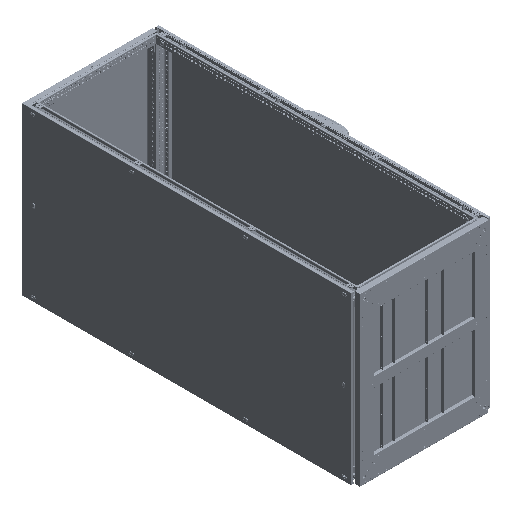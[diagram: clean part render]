
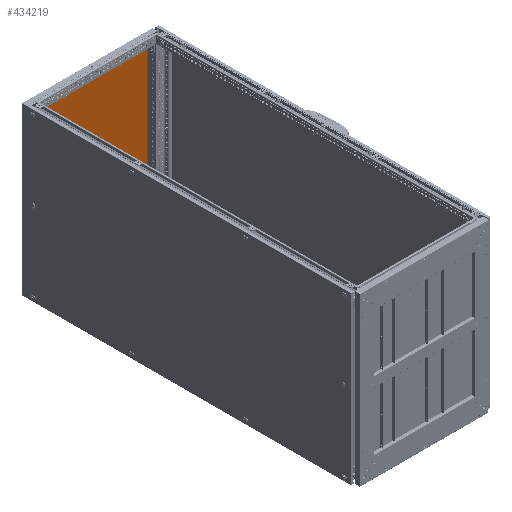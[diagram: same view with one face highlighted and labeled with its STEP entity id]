
A CAD part, isometric view. The second image highlights one B-rep face of the part: STEP entity #434219.
In plain terms, the highlighted planar face has unit normal (0, -1, 0).
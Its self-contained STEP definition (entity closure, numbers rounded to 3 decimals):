
#2221 = CARTESIAN_POINT ( 'NONE',  ( 445.01, 0., -350. ) ) ;
#4102 = VERTEX_POINT ( 'NONE', #454164 ) ;
#5975 = AXIS2_PLACEMENT_3D ( 'NONE', #424928, #415327, #129595 ) ;
#7315 = LINE ( 'NONE', #494138, #44578 ) ;
#16836 = CIRCLE ( 'NONE', #203551, 5. ) ;
#35758 = DIRECTION ( 'NONE',  ( 0., 0., -1. ) ) ;
#42490 = CARTESIAN_POINT ( 'NONE',  ( -450.01, 0., -345. ) ) ;
#44578 = VECTOR ( 'NONE', #49549, 1000. ) ;
#45973 = DIRECTION ( 'NONE',  ( 0., -1., 0. ) ) ;
#46067 = CARTESIAN_POINT ( 'NONE',  ( -445.01, 0., -350. ) ) ;
#49549 = DIRECTION ( 'NONE',  ( 0., 0., 1. ) ) ;
#85725 = LINE ( 'NONE', #436094, #210504 ) ;
#86368 = ORIENTED_EDGE ( 'NONE', *, *, #244236, .T. ) ;
#101419 = VERTEX_POINT ( 'NONE', #610314 ) ;
#108627 = VERTEX_POINT ( 'NONE', #155641 ) ;
#109139 = DIRECTION ( 'NONE',  ( -1., 0., 0. ) ) ;
#110313 = ORIENTED_EDGE ( 'NONE', *, *, #547512, .T. ) ;
#116216 = DIRECTION ( 'NONE',  ( 0., -1., 0. ) ) ;
#126480 = VECTOR ( 'NONE', #164180, 1000. ) ;
#128657 = CARTESIAN_POINT ( 'NONE',  ( 445.01, 0., -350. ) ) ;
#129595 = DIRECTION ( 'NONE',  ( 0., 0., -1. ) ) ;
#130514 = CIRCLE ( 'NONE', #5975, 5. ) ;
#130663 = EDGE_CURVE ( 'NONE', #619233, #4102, #608819, .T. ) ;
#155641 = CARTESIAN_POINT ( 'NONE',  ( -450.01, 0., 345. ) ) ;
#164180 = DIRECTION ( 'NONE',  ( -1., 0., 0. ) ) ;
#203551 = AXIS2_PLACEMENT_3D ( 'NONE', #545689, #45973, #292602 ) ;
#210504 = VECTOR ( 'NONE', #290049, 1000. ) ;
#215291 = CARTESIAN_POINT ( 'NONE',  ( 445.01, 0., -345. ) ) ;
#222417 = ORIENTED_EDGE ( 'NONE', *, *, #554161, .T. ) ;
#244236 = EDGE_CURVE ( 'NONE', #4102, #108627, #130514, .T. ) ;
#270289 = FACE_OUTER_BOUND ( 'NONE', #555621, .T. ) ;
#273411 = CIRCLE ( 'NONE', #418424, 5. ) ;
#273723 = VECTOR ( 'NONE', #109139, 1000. ) ;
#277000 = ORIENTED_EDGE ( 'NONE', *, *, #478136, .T. ) ;
#290049 = DIRECTION ( 'NONE',  ( 0., 0., -1. ) ) ;
#292602 = DIRECTION ( 'NONE',  ( 0., 0., -1. ) ) ;
#297190 = EDGE_CURVE ( 'NONE', #428687, #635491, #544203, .T. ) ;
#300680 = CARTESIAN_POINT ( 'NONE',  ( 445.01, 0., 350. ) ) ;
#314217 = DIRECTION ( 'NONE',  ( 0., 0., -1. ) ) ;
#314232 = VERTEX_POINT ( 'NONE', #445952 ) ;
#315782 = DIRECTION ( 'NONE',  ( 0., 0., 1. ) ) ;
#316554 = ORIENTED_EDGE ( 'NONE', *, *, #130663, .T. ) ;
#329433 = CIRCLE ( 'NONE', #526401, 5. ) ;
#366952 = ORIENTED_EDGE ( 'NONE', *, *, #404842, .T. ) ;
#387744 = CARTESIAN_POINT ( 'NONE',  ( 445.01, 0., 350. ) ) ;
#404842 = EDGE_CURVE ( 'NONE', #108627, #464152, #85725, .T. ) ;
#415327 = DIRECTION ( 'NONE',  ( 0., -1., 0. ) ) ;
#418424 = AXIS2_PLACEMENT_3D ( 'NONE', #512197, #116216, #314217 ) ;
#419545 = PLANE ( 'NONE',  #619082 ) ;
#424928 = CARTESIAN_POINT ( 'NONE',  ( -445.01, 0., 345. ) ) ;
#428621 = ORIENTED_EDGE ( 'NONE', *, *, #513158, .T. ) ;
#428687 = VERTEX_POINT ( 'NONE', #128657 ) ;
#434219 = ADVANCED_FACE ( 'NONE', ( #270289 ), #419545, .F. ) ;
#434810 = DIRECTION ( 'NONE',  ( 0., -1., 0. ) ) ;
#436094 = CARTESIAN_POINT ( 'NONE',  ( -450.01, 0., 345. ) ) ;
#445952 = CARTESIAN_POINT ( 'NONE',  ( 450.01, 0., 345. ) ) ;
#451900 = ORIENTED_EDGE ( 'NONE', *, *, #297190, .F. ) ;
#454164 = CARTESIAN_POINT ( 'NONE',  ( -445.01, 0., 350. ) ) ;
#458642 = DIRECTION ( 'NONE',  ( 0., 1., 0. ) ) ;
#464152 = VERTEX_POINT ( 'NONE', #42490 ) ;
#478136 = EDGE_CURVE ( 'NONE', #314232, #619233, #273411, .T. ) ;
#494138 = CARTESIAN_POINT ( 'NONE',  ( 450.01, 0., -345. ) ) ;
#512197 = CARTESIAN_POINT ( 'NONE',  ( 445.01, 0., 345. ) ) ;
#513158 = EDGE_CURVE ( 'NONE', #464152, #635491, #16836, .T. ) ;
#526401 = AXIS2_PLACEMENT_3D ( 'NONE', #215291, #434810, #35758 ) ;
#544203 = LINE ( 'NONE', #2221, #273723 ) ;
#545689 = CARTESIAN_POINT ( 'NONE',  ( -445.01, 0., -345. ) ) ;
#547512 = EDGE_CURVE ( 'NONE', #428687, #101419, #329433, .T. ) ;
#554161 = EDGE_CURVE ( 'NONE', #101419, #314232, #7315, .T. ) ;
#555621 = EDGE_LOOP ( 'NONE', ( #428621, #451900, #110313, #222417, #277000, #316554, #86368, #366952 ) ) ;
#565618 = CARTESIAN_POINT ( 'NONE',  ( -487.7, 0., -382.5 ) ) ;
#608819 = LINE ( 'NONE', #300680, #126480 ) ;
#610314 = CARTESIAN_POINT ( 'NONE',  ( 450.01, 0., -345. ) ) ;
#619082 = AXIS2_PLACEMENT_3D ( 'NONE', #565618, #458642, #315782 ) ;
#619233 = VERTEX_POINT ( 'NONE', #387744 ) ;
#635491 = VERTEX_POINT ( 'NONE', #46067 ) ;
